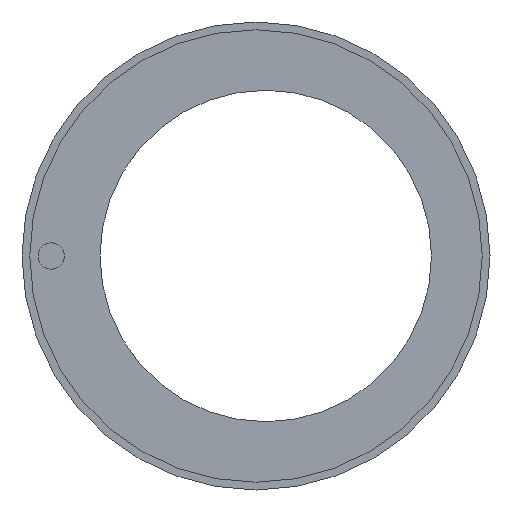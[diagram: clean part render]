
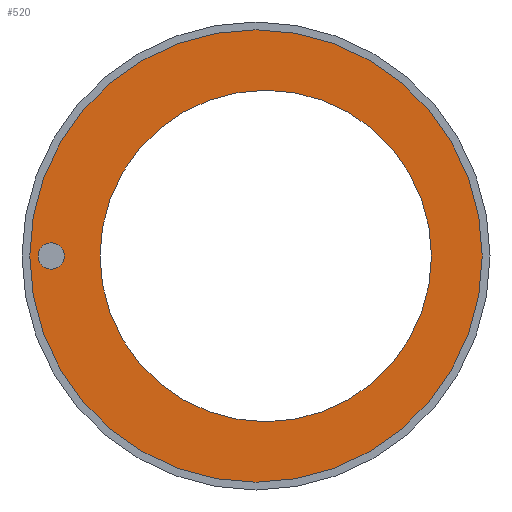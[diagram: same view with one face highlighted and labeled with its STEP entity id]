
A CAD part, front view. The second image highlights one B-rep face of the part: STEP entity #520.
In plain terms, the highlighted planar face has unit normal (0, -1, 0).
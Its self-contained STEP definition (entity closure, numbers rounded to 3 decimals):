
#33 = CYLINDRICAL_SURFACE('',#34,1.35);
#34 = AXIS2_PLACEMENT_3D('',#35,#36,#37);
#35 = CARTESIAN_POINT('',(-22.,-0.45,0.));
#36 = DIRECTION('',(-0.,1.,-0.));
#37 = DIRECTION('',(0.,0.,1.));
#58 = VERTEX_POINT('',#59);
#59 = CARTESIAN_POINT('',(-22.,0.,-1.35));
#73 = CYLINDRICAL_SURFACE('',#74,1.35);
#74 = AXIS2_PLACEMENT_3D('',#75,#76,#77);
#75 = CARTESIAN_POINT('',(-22.,-0.45,0.));
#76 = DIRECTION('',(-0.,1.,-0.));
#77 = DIRECTION('',(0.,0.,1.));
#85 = EDGE_CURVE('',#58,#86,#88,.T.);
#86 = VERTEX_POINT('',#87);
#87 = CARTESIAN_POINT('',(-22.,0.,1.35));
#88 = SURFACE_CURVE('',#89,(#94,#101),.PCURVE_S1.);
#89 = CIRCLE('',#90,1.35);
#90 = AXIS2_PLACEMENT_3D('',#91,#92,#93);
#91 = CARTESIAN_POINT('',(-22.,0.,0.));
#92 = DIRECTION('',(0.,-1.,0.));
#93 = DIRECTION('',(0.,0.,1.));
#94 = PCURVE('',#33,#95);
#95 = DEFINITIONAL_REPRESENTATION('',(#96),#100);
#96 = LINE('',#97,#98);
#97 = CARTESIAN_POINT('',(6.283,0.45));
#98 = VECTOR('',#99,1.);
#99 = DIRECTION('',(-1.,0.));
#100 = ( GEOMETRIC_REPRESENTATION_CONTEXT(2) 
PARAMETRIC_REPRESENTATION_CONTEXT() REPRESENTATION_CONTEXT('2D SPACE',''
  ) );
#101 = PCURVE('',#102,#107);
#102 = PLANE('',#103);
#103 = AXIS2_PLACEMENT_3D('',#104,#105,#106);
#104 = CARTESIAN_POINT('',(-1.,0.,0.));
#105 = DIRECTION('',(0.,1.,0.));
#106 = DIRECTION('',(0.,-0.,1.));
#107 = DEFINITIONAL_REPRESENTATION('',(#108),#116);
#108 = ( BOUNDED_CURVE() B_SPLINE_CURVE(2,(#109,#110,#111,#112,#113,#114
,#115),.UNSPECIFIED.,.T.,.F.) B_SPLINE_CURVE_WITH_KNOTS((1,2,2,2,2,1),(
    -2.094,0.,2.094,4.189,6.283,
8.378),.UNSPECIFIED.) CURVE() GEOMETRIC_REPRESENTATION_ITEM() 
RATIONAL_B_SPLINE_CURVE((1.,0.5,1.,0.5,1.,0.5,1.)) REPRESENTATION_ITEM(
  '') );
#109 = CARTESIAN_POINT('',(1.35,-21.));
#110 = CARTESIAN_POINT('',(1.35,-23.338));
#111 = CARTESIAN_POINT('',(-0.675,-22.169));
#112 = CARTESIAN_POINT('',(-2.7,-21.));
#113 = CARTESIAN_POINT('',(-0.675,-19.831));
#114 = CARTESIAN_POINT('',(1.35,-18.662));
#115 = CARTESIAN_POINT('',(1.35,-21.));
#116 = ( GEOMETRIC_REPRESENTATION_CONTEXT(2) 
PARAMETRIC_REPRESENTATION_CONTEXT() REPRESENTATION_CONTEXT('2D SPACE',''
  ) );
#262 = VERTEX_POINT('',#263);
#263 = CARTESIAN_POINT('',(-1.,0.,23.2));
#270 = CYLINDRICAL_SURFACE('',#271,23.2);
#271 = AXIS2_PLACEMENT_3D('',#272,#273,#274);
#272 = CARTESIAN_POINT('',(-1.,-3.5,0.));
#273 = DIRECTION('',(0.,1.,0.));
#274 = DIRECTION('',(0.,-0.,1.));
#282 = CYLINDRICAL_SURFACE('',#283,23.2);
#283 = AXIS2_PLACEMENT_3D('',#284,#285,#286);
#284 = CARTESIAN_POINT('',(-1.,-3.5,0.));
#285 = DIRECTION('',(0.,1.,0.));
#286 = DIRECTION('',(0.,-0.,1.));
#294 = EDGE_CURVE('',#295,#262,#297,.T.);
#295 = VERTEX_POINT('',#296);
#296 = CARTESIAN_POINT('',(-1.,0.,-23.2));
#297 = SURFACE_CURVE('',#298,(#303,#310),.PCURVE_S1.);
#298 = CIRCLE('',#299,23.2);
#299 = AXIS2_PLACEMENT_3D('',#300,#301,#302);
#300 = CARTESIAN_POINT('',(-1.,0.,0.));
#301 = DIRECTION('',(0.,1.,0.));
#302 = DIRECTION('',(0.,-0.,1.));
#303 = PCURVE('',#270,#304);
#304 = DEFINITIONAL_REPRESENTATION('',(#305),#309);
#305 = LINE('',#306,#307);
#306 = CARTESIAN_POINT('',(0.,3.5));
#307 = VECTOR('',#308,1.);
#308 = DIRECTION('',(1.,0.));
#309 = ( GEOMETRIC_REPRESENTATION_CONTEXT(2) 
PARAMETRIC_REPRESENTATION_CONTEXT() REPRESENTATION_CONTEXT('2D SPACE',''
  ) );
#310 = PCURVE('',#102,#311);
#311 = DEFINITIONAL_REPRESENTATION('',(#312),#316);
#312 = CIRCLE('',#313,23.2);
#313 = AXIS2_PLACEMENT_2D('',#314,#315);
#314 = CARTESIAN_POINT('',(0.,0.));
#315 = DIRECTION('',(1.,0.));
#316 = ( GEOMETRIC_REPRESENTATION_CONTEXT(2) 
PARAMETRIC_REPRESENTATION_CONTEXT() REPRESENTATION_CONTEXT('2D SPACE',''
  ) );
#369 = VERTEX_POINT('',#370);
#370 = CARTESIAN_POINT('',(0.,0.,-17.));
#377 = CYLINDRICAL_SURFACE('',#378,17.);
#378 = AXIS2_PLACEMENT_3D('',#379,#380,#381);
#379 = CARTESIAN_POINT('',(0.,1.5,0.));
#380 = DIRECTION('',(-0.,-1.,-0.));
#381 = DIRECTION('',(0.,0.,-1.));
#389 = CYLINDRICAL_SURFACE('',#390,17.);
#390 = AXIS2_PLACEMENT_3D('',#391,#392,#393);
#391 = CARTESIAN_POINT('',(0.,1.5,0.));
#392 = DIRECTION('',(-0.,-1.,-0.));
#393 = DIRECTION('',(0.,0.,-1.));
#401 = EDGE_CURVE('',#369,#402,#404,.T.);
#402 = VERTEX_POINT('',#403);
#403 = CARTESIAN_POINT('',(0.,0.,17.));
#404 = SURFACE_CURVE('',#405,(#410,#417),.PCURVE_S1.);
#405 = CIRCLE('',#406,17.);
#406 = AXIS2_PLACEMENT_3D('',#407,#408,#409);
#407 = CARTESIAN_POINT('',(0.,0.,0.));
#408 = DIRECTION('',(0.,1.,0.));
#409 = DIRECTION('',(0.,-0.,1.));
#410 = PCURVE('',#377,#411);
#411 = DEFINITIONAL_REPRESENTATION('',(#412),#416);
#412 = LINE('',#413,#414);
#413 = CARTESIAN_POINT('',(9.425,1.5));
#414 = VECTOR('',#415,1.);
#415 = DIRECTION('',(-1.,0.));
#416 = ( GEOMETRIC_REPRESENTATION_CONTEXT(2) 
PARAMETRIC_REPRESENTATION_CONTEXT() REPRESENTATION_CONTEXT('2D SPACE',''
  ) );
#417 = PCURVE('',#102,#418);
#418 = DEFINITIONAL_REPRESENTATION('',(#419),#423);
#419 = CIRCLE('',#420,17.);
#420 = AXIS2_PLACEMENT_2D('',#421,#422);
#421 = CARTESIAN_POINT('',(0.,1.));
#422 = DIRECTION('',(1.,0.));
#423 = ( GEOMETRIC_REPRESENTATION_CONTEXT(2) 
PARAMETRIC_REPRESENTATION_CONTEXT() REPRESENTATION_CONTEXT('2D SPACE',''
  ) );
#520 = ADVANCED_FACE('',(#521,#550,#575),#102,.F.);
#521 = FACE_BOUND('',#522,.T.);
#522 = EDGE_LOOP('',(#523,#549));
#523 = ORIENTED_EDGE('',*,*,#524,.F.);
#524 = EDGE_CURVE('',#86,#58,#525,.T.);
#525 = SURFACE_CURVE('',#526,(#531,#542),.PCURVE_S1.);
#526 = CIRCLE('',#527,1.35);
#527 = AXIS2_PLACEMENT_3D('',#528,#529,#530);
#528 = CARTESIAN_POINT('',(-22.,0.,0.));
#529 = DIRECTION('',(0.,-1.,0.));
#530 = DIRECTION('',(0.,0.,1.));
#531 = PCURVE('',#102,#532);
#532 = DEFINITIONAL_REPRESENTATION('',(#533),#541);
#533 = ( BOUNDED_CURVE() B_SPLINE_CURVE(2,(#534,#535,#536,#537,#538,#539
,#540),.UNSPECIFIED.,.T.,.F.) B_SPLINE_CURVE_WITH_KNOTS((1,2,2,2,2,1),(
    -2.094,0.,2.094,4.189,6.283,
8.378),.UNSPECIFIED.) CURVE() GEOMETRIC_REPRESENTATION_ITEM() 
RATIONAL_B_SPLINE_CURVE((1.,0.5,1.,0.5,1.,0.5,1.)) REPRESENTATION_ITEM(
  '') );
#534 = CARTESIAN_POINT('',(1.35,-21.));
#535 = CARTESIAN_POINT('',(1.35,-23.338));
#536 = CARTESIAN_POINT('',(-0.675,-22.169));
#537 = CARTESIAN_POINT('',(-2.7,-21.));
#538 = CARTESIAN_POINT('',(-0.675,-19.831));
#539 = CARTESIAN_POINT('',(1.35,-18.662));
#540 = CARTESIAN_POINT('',(1.35,-21.));
#541 = ( GEOMETRIC_REPRESENTATION_CONTEXT(2) 
PARAMETRIC_REPRESENTATION_CONTEXT() REPRESENTATION_CONTEXT('2D SPACE',''
  ) );
#542 = PCURVE('',#73,#543);
#543 = DEFINITIONAL_REPRESENTATION('',(#544),#548);
#544 = LINE('',#545,#546);
#545 = CARTESIAN_POINT('',(6.283,0.45));
#546 = VECTOR('',#547,1.);
#547 = DIRECTION('',(-1.,0.));
#548 = ( GEOMETRIC_REPRESENTATION_CONTEXT(2) 
PARAMETRIC_REPRESENTATION_CONTEXT() REPRESENTATION_CONTEXT('2D SPACE',''
  ) );
#549 = ORIENTED_EDGE('',*,*,#85,.F.);
#550 = FACE_BOUND('',#551,.T.);
#551 = EDGE_LOOP('',(#552,#574));
#552 = ORIENTED_EDGE('',*,*,#553,.F.);
#553 = EDGE_CURVE('',#262,#295,#554,.T.);
#554 = SURFACE_CURVE('',#555,(#560,#567),.PCURVE_S1.);
#555 = CIRCLE('',#556,23.2);
#556 = AXIS2_PLACEMENT_3D('',#557,#558,#559);
#557 = CARTESIAN_POINT('',(-1.,0.,0.));
#558 = DIRECTION('',(0.,1.,0.));
#559 = DIRECTION('',(0.,-0.,1.));
#560 = PCURVE('',#102,#561);
#561 = DEFINITIONAL_REPRESENTATION('',(#562),#566);
#562 = CIRCLE('',#563,23.2);
#563 = AXIS2_PLACEMENT_2D('',#564,#565);
#564 = CARTESIAN_POINT('',(0.,0.));
#565 = DIRECTION('',(1.,0.));
#566 = ( GEOMETRIC_REPRESENTATION_CONTEXT(2) 
PARAMETRIC_REPRESENTATION_CONTEXT() REPRESENTATION_CONTEXT('2D SPACE',''
  ) );
#567 = PCURVE('',#282,#568);
#568 = DEFINITIONAL_REPRESENTATION('',(#569),#573);
#569 = LINE('',#570,#571);
#570 = CARTESIAN_POINT('',(0.,3.5));
#571 = VECTOR('',#572,1.);
#572 = DIRECTION('',(1.,0.));
#573 = ( GEOMETRIC_REPRESENTATION_CONTEXT(2) 
PARAMETRIC_REPRESENTATION_CONTEXT() REPRESENTATION_CONTEXT('2D SPACE',''
  ) );
#574 = ORIENTED_EDGE('',*,*,#294,.F.);
#575 = FACE_BOUND('',#576,.T.);
#576 = EDGE_LOOP('',(#577,#578));
#577 = ORIENTED_EDGE('',*,*,#401,.T.);
#578 = ORIENTED_EDGE('',*,*,#579,.T.);
#579 = EDGE_CURVE('',#402,#369,#580,.T.);
#580 = SURFACE_CURVE('',#581,(#586,#593),.PCURVE_S1.);
#581 = CIRCLE('',#582,17.);
#582 = AXIS2_PLACEMENT_3D('',#583,#584,#585);
#583 = CARTESIAN_POINT('',(0.,0.,0.));
#584 = DIRECTION('',(0.,1.,0.));
#585 = DIRECTION('',(0.,-0.,1.));
#586 = PCURVE('',#102,#587);
#587 = DEFINITIONAL_REPRESENTATION('',(#588),#592);
#588 = CIRCLE('',#589,17.);
#589 = AXIS2_PLACEMENT_2D('',#590,#591);
#590 = CARTESIAN_POINT('',(0.,1.));
#591 = DIRECTION('',(1.,0.));
#592 = ( GEOMETRIC_REPRESENTATION_CONTEXT(2) 
PARAMETRIC_REPRESENTATION_CONTEXT() REPRESENTATION_CONTEXT('2D SPACE',''
  ) );
#593 = PCURVE('',#389,#594);
#594 = DEFINITIONAL_REPRESENTATION('',(#595),#599);
#595 = LINE('',#596,#597);
#596 = CARTESIAN_POINT('',(3.142,1.5));
#597 = VECTOR('',#598,1.);
#598 = DIRECTION('',(-1.,0.));
#599 = ( GEOMETRIC_REPRESENTATION_CONTEXT(2) 
PARAMETRIC_REPRESENTATION_CONTEXT() REPRESENTATION_CONTEXT('2D SPACE',''
  ) );
